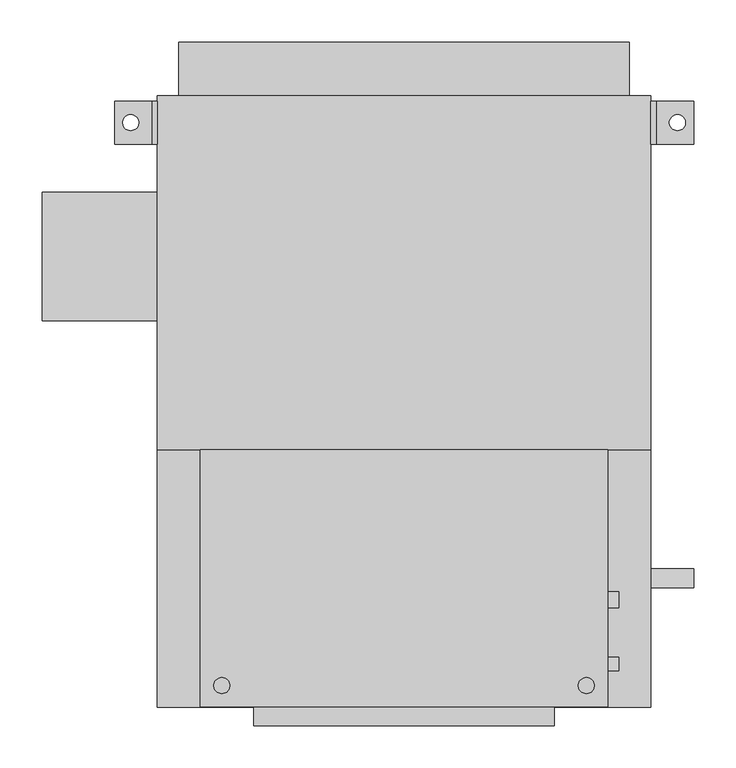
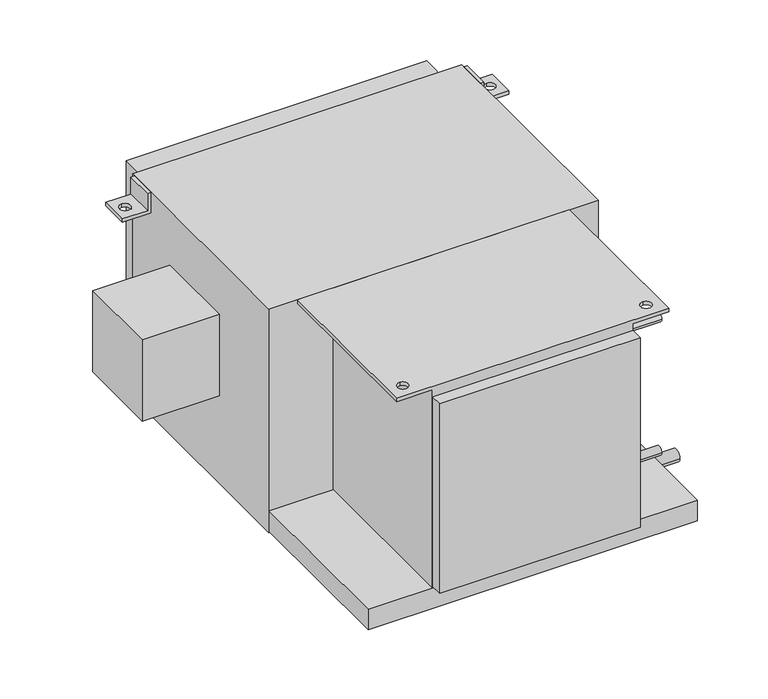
"""IFC4 building model written with IfcOpenShell, lengths in millimetres: proxy geometry, Concealed_High_Capacity_Horizontal_Fan_Coil_Unit_With_Plenum_-_42DCA_-_CARRIER_-_4-Pipe_RH_2022 : Size 06 - 277v/60Hz/1Ph - 6/2 Coil."""

from ifc_helpers import new_model, si_unit, point, frame, frame_2d, origin, place, context, project, spatial, polyline, circle_curve, trimmed, segment, composite_curve, outline, extrude, source, transform, mapped, element, save
from ifc_brep_helpers import plane_surface, revolved_surface, advanced_brep


def mechanical_equipment_5d9127df(model_context):
    return source(origin(), model_context, "Body", "SolidModel", [
        advanced_brep(
        [(-88.9, -85.725, 0.0), (-88.9, -390.525, 0.0), (393.7, -390.525, 0.0), (393.7, -85.725, 0.0), (-63.5, -374.65, 0.0), (-63.5, -355.6, 0.0), (368.3, -374.65, 0.0), (368.3, -355.6, 0.0), (330.2, -85.725, -377.825), (330.2, -390.525, -377.825), (-25.4, -390.525, -377.825), (-25.4, -85.725, -377.825), (-25.4, -85.725, -6.35), (-88.9, -85.725, -6.35), (393.7, -85.725, -6.35), (330.2, -85.725, -6.35), (-25.4, -390.525, -6.35), (330.2, -390.525, -6.35), (393.7, -390.525, -6.35), (-88.9, -390.525, -6.35), (-63.5, -355.6, -6.35), (-63.5, -374.65, -6.35), (368.3, -355.6, -6.35), (368.3, -374.65, -6.35)],
        [
            (0, 1),
            (1, 2),
            (2, 3),
            (3, 0),
            (4, 5, circle_curve(frame((-63.5, -365.125, 0.0), z_axis=(0.0, 0.0, -1.0), x_axis=(0.0, 1.0, 0.0)), 9.525)),
            (5, 4, circle_curve(frame((-63.5, -365.125, 0.0), z_axis=(0.0, 0.0, -1.0), x_axis=(0.0, 1.0, 0.0)), 9.525)),
            (6, 7, circle_curve(frame((368.3, -365.125, 0.0), z_axis=(0.0, 0.0, -1.0), x_axis=(0.0, 1.0, 0.0)), 9.525)),
            (7, 6, circle_curve(frame((368.3, -365.125, 0.0), z_axis=(0.0, 0.0, -1.0), x_axis=(0.0, 1.0, 0.0)), 9.525)),
            (8, 9),
            (9, 10),
            (10, 11),
            (11, 8),
            (11, 12),
            (12, 13),
            (13, 0),
            (3, 14),
            (14, 15),
            (15, 8),
            (10, 16),
            (16, 12),
            (9, 17),
            (17, 18),
            (18, 2),
            (1, 19),
            (19, 16),
            (15, 17),
            (19, 13),
            (20, 21, circle_curve(frame((-63.5, -365.125, -6.35), z_axis=(0.0, 0.0, 1.0), x_axis=(0.0, 1.0, 0.0)), 9.525)),
            (21, 20, circle_curve(frame((-63.5, -365.125, -6.35), z_axis=(0.0, 0.0, 1.0), x_axis=(0.0, 1.0, 0.0)), 9.525)),
            (14, 18),
            (22, 23, circle_curve(frame((368.3, -365.125, -6.35), z_axis=(0.0, 0.0, 1.0), x_axis=(0.0, 1.0, 0.0)), 9.525)),
            (23, 22, circle_curve(frame((368.3, -365.125, -6.35), z_axis=(0.0, 0.0, 1.0), x_axis=(0.0, 1.0, 0.0)), 9.525)),
            (4, 21),
            (20, 5),
            (6, 23),
            (22, 7),
        ],
        [
            plane_surface(frame((-25.4, -85.725, 0.0), z_axis=(0.0, 0.0, 1.0), x_axis=(-1.0, 0.0, 0.0))),
            plane_surface(frame((-25.4, -85.725, -377.825), z_axis=(0.0, 0.0, -1.0), x_axis=(1.0, 0.0, 0.0))),
            plane_surface(frame((330.2, -85.725, 0.0), z_axis=(0.0, 1.0, 0.0), x_axis=(0.0, 0.0, -1.0))),
            plane_surface(frame((-25.4, -85.725, 0.0), z_axis=(-1.0, 0.0, 0.0), x_axis=(0.0, 0.0, -1.0))),
            plane_surface(frame((-25.4, -390.525, 0.0), z_axis=(0.0, -1.0, 0.0), x_axis=(0.0, 0.0, -1.0))),
            plane_surface(frame((330.2, -390.525, 0.0), z_axis=(1.0, 0.0, 0.0), x_axis=(0.0, 0.0, -1.0))),
            plane_surface(frame((-88.9, -85.725, -6.35), z_axis=(0.0, 0.0, -1.0), x_axis=(0.0, 1.0, 0.0))),
            plane_surface(frame((-88.9, -85.725, 0.0), z_axis=(-1.0, 0.0, 0.0), x_axis=(0.0, 0.0, -1.0))),
            plane_surface(frame((393.7, -390.525, 0.0), z_axis=(1.0, 0.0, 0.0), x_axis=(0.0, 0.0, -1.0))),
            revolved_surface(polyline([(-63.5, -355.6, -6.35), (-63.5, -355.6, 0.0)]), (-63.5, -365.125, 0.0), (0.0, 0.0, -1.0)),
            revolved_surface(polyline([(368.3, -355.6, -6.35), (368.3, -355.6, 0.0)]), (368.3, -365.125, 0.0), (0.0, 0.0, -1.0)),
        ],
        [
            (0, [[1, 2, 3, 4], [5, 6], [7, 8]]),
            (1, [[9, 10, 11, 12]]),
            (2, [[-12, 13, 14, 15, -4, 16, 17, 18]]),
            (3, [[-11, 19, 20, -13]]),
            (4, [[-10, 21, 22, 23, -2, 24, 25, -19]]),
            (5, [[-9, -18, 26, -21]]),
            (6, [[-14, -20, -25, 27], [28, 29]]),
            (6, [[30, -22, -26, -17], [31, 32]]),
            (7, [[-27, -24, -1, -15]]),
            (8, [[-30, -16, -3, -23]]),
            (9, [[33, -28, 34, -5]]),
            (9, [[-33, -6, -34, -29]]),
            (10, [[35, -31, 36, -7]]),
            (10, [[-35, -8, -36, -32]]),
        ],
    ),
        advanced_brep(
        [(-139.7, 327.025, -38.1), (-190.5, 327.025, -38.1), (-190.5, 327.025, -31.75), (-146.05, 327.025, -31.75), (-146.05, 327.025, 0.0), (-139.7, 327.025, 0.0), (-139.7, 276.225, -38.1), (-139.7, 276.225, 0.0), (-146.05, 276.225, 0.0), (-146.05, 276.225, -31.75), (-190.5, 276.225, -31.75), (-190.5, 276.225, -38.1), (-171.45, 292.1, -38.1), (-171.45, 311.15, -38.1), (-171.45, 311.15, -31.75), (-171.45, 292.1, -31.75)],
        [
            (0, 1),
            (1, 2),
            (2, 3),
            (3, 4),
            (4, 5),
            (5, 0),
            (6, 7),
            (7, 8),
            (8, 9),
            (9, 10),
            (10, 11),
            (11, 6),
            (0, 6),
            (11, 1),
            (12, 13, circle_curve(frame((-171.45, 301.625, -38.1), z_axis=(0.0, 0.0, 1.0), x_axis=(0.0, -1.0, 0.0)), 9.525)),
            (13, 12, circle_curve(frame((-171.45, 301.625, -38.1), z_axis=(0.0, 0.0, 1.0), x_axis=(0.0, -1.0, 0.0)), 9.525)),
            (10, 2),
            (9, 3),
            (14, 15, circle_curve(frame((-171.45, 301.625, -31.75), z_axis=(0.0, 0.0, -1.0), x_axis=(0.0, -1.0, 0.0)), 9.525)),
            (15, 14, circle_curve(frame((-171.45, 301.625, -31.75), z_axis=(0.0, 0.0, -1.0), x_axis=(0.0, -1.0, 0.0)), 9.525)),
            (8, 4),
            (7, 5),
            (14, 13),
            (12, 15),
        ],
        [
            plane_surface(frame((-139.7, 327.025, -38.1), z_axis=(0.0, 1.0, 0.0), x_axis=(-1.0, 0.0, 0.0))),
            plane_surface(frame((-139.7, 276.225, -38.1), z_axis=(0.0, -1.0, 0.0), x_axis=(1.0, 0.0, 0.0))),
            plane_surface(frame((-139.7, 327.025, -38.1), z_axis=(0.0, 0.0, -1.0), x_axis=(0.0, -1.0, 0.0))),
            plane_surface(frame((-190.5, 327.025, -38.1), z_axis=(-1.0, 0.0, 0.0), x_axis=(0.0, -1.0, 0.0))),
            plane_surface(frame((-190.5, 327.025, -31.75), z_axis=(0.0, 0.0, 1.0), x_axis=(0.0, -1.0, 0.0))),
            plane_surface(frame((-146.05, 327.025, -31.75), z_axis=(-1.0, 0.0, 0.0), x_axis=(0.0, -1.0, 0.0))),
            plane_surface(frame((-146.05, 327.025, 0.0), z_axis=(0.0, 0.0, 1.0), x_axis=(0.0, -1.0, 0.0))),
            plane_surface(frame((-139.7, 327.025, 0.0), z_axis=(1.0, 0.0, 0.0), x_axis=(0.0, -1.0, 0.0))),
            revolved_surface(polyline([(-171.45, 292.1, -38.1), (-171.45, 292.1, -31.75)]), (-171.45, 301.625, -31.75), (0.0, 0.0, -1.0)),
        ],
        [
            (0, [[1, 2, 3, 4, 5, 6]]),
            (1, [[7, 8, 9, 10, 11, 12]]),
            (2, [[-1, 13, -12, 14], [15, 16]]),
            (3, [[-2, -14, -11, 17]]),
            (4, [[-3, -17, -10, 18], [19, 20]]),
            (5, [[-4, -18, -9, 21]]),
            (6, [[-5, -21, -8, 22]]),
            (7, [[-6, -22, -7, -13]]),
            (8, [[23, -15, 24, -19]]),
            (8, [[-23, -20, -24, -16]]),
        ],
    ),
        advanced_brep(
        [(444.5, 327.025, -38.1), (444.5, 327.025, 0.0), (450.85, 327.025, 0.0), (450.85, 327.025, -31.75), (495.3, 327.025, -31.75), (495.3, 327.025, -38.1), (444.5, 276.225, -38.1), (495.3, 276.225, -38.1), (495.3, 276.225, -31.75), (450.85, 276.225, -31.75), (450.85, 276.225, 0.0), (444.5, 276.225, 0.0), (476.25, 311.15, -31.75), (476.25, 292.1, -31.75), (476.25, 292.1, -38.1), (476.25, 311.15, -38.1)],
        [
            (0, 1),
            (1, 2),
            (2, 3),
            (3, 4),
            (4, 5),
            (5, 0),
            (6, 7),
            (7, 8),
            (8, 9),
            (9, 10),
            (10, 11),
            (11, 6),
            (0, 6),
            (11, 1),
            (10, 2),
            (9, 3),
            (8, 4),
            (12, 13, circle_curve(frame((476.25, 301.625, -31.75), z_axis=(0.0, 0.0, -1.0), x_axis=(0.0, -1.0, 0.0)), 9.525)),
            (13, 12, circle_curve(frame((476.25, 301.625, -31.75), z_axis=(0.0, 0.0, -1.0), x_axis=(0.0, -1.0, 0.0)), 9.525)),
            (7, 5),
            (14, 15, circle_curve(frame((476.25, 301.625, -38.1), z_axis=(0.0, 0.0, 1.0), x_axis=(0.0, -1.0, 0.0)), 9.525)),
            (15, 14, circle_curve(frame((476.25, 301.625, -38.1), z_axis=(0.0, 0.0, 1.0), x_axis=(0.0, -1.0, 0.0)), 9.525)),
            (12, 15),
            (14, 13),
        ],
        [
            plane_surface(frame((-139.7, 327.025, -38.1), z_axis=(0.0, 1.0, 0.0), x_axis=(-1.0, 0.0, 0.0))),
            plane_surface(frame((-139.7, 276.225, -38.1), z_axis=(0.0, -1.0, 0.0), x_axis=(1.0, 0.0, 0.0))),
            plane_surface(frame((444.5, 327.025, -38.1), z_axis=(-1.0, 0.0, 0.0), x_axis=(0.0, -1.0, 0.0))),
            plane_surface(frame((444.5, 327.025, 0.0), z_axis=(0.0, 0.0, 1.0), x_axis=(0.0, -1.0, 0.0))),
            plane_surface(frame((450.85, 327.025, 0.0), z_axis=(1.0, 0.0, 0.0), x_axis=(0.0, -1.0, 0.0))),
            plane_surface(frame((450.85, 327.025, -31.75), z_axis=(0.0, 0.0, 1.0), x_axis=(0.0, -1.0, 0.0))),
            plane_surface(frame((495.3, 327.025, -31.75), z_axis=(1.0, 0.0, 0.0), x_axis=(0.0, -1.0, 0.0))),
            plane_surface(frame((495.3, 327.025, -38.1), z_axis=(0.0, 0.0, -1.0), x_axis=(0.0, -1.0, 0.0))),
            revolved_surface(polyline([(476.25, 292.1, -38.1), (476.25, 292.1, -31.75)]), (476.25, 301.625, -31.75), (0.0, 0.0, -1.0)),
        ],
        [
            (0, [[1, 2, 3, 4, 5, 6]]),
            (1, [[7, 8, 9, 10, 11, 12]]),
            (2, [[-1, 13, -12, 14]]),
            (3, [[-2, -14, -11, 15]]),
            (4, [[-3, -15, -10, 16]]),
            (5, [[-4, -16, -9, 17], [18, 19]]),
            (6, [[-5, -17, -8, 20]]),
            (7, [[-6, -20, -7, -13], [21, 22]]),
            (8, [[23, -21, 24, -18]]),
            (8, [[-23, -19, -24, -22]]),
        ],
    ),
        extrude(outline(polyline([(-114.3, 396.875), (419.1, 396.875), (419.1, 333.375), (-114.3, 333.375), (-114.3, 396.875)])), frame((0.0, 0.0, -377.825), z_axis=(0.0, 0.0, 1.0), x_axis=(1.0, 0.0, 0.0)), (0.0, 0.0, 1.0), 355.6),
        extrude(outline(composite_curve([segment(trimmed(circle_curve(frame_2d((-263.525, -76.2)), 9.525), [point((-254.0, -76.2))], [point((-273.05, -76.2))], False, "CARTESIAN"), True, "CONTINUOUS"), segment(trimmed(circle_curve(frame_2d((-263.525, -76.2)), 9.525), [point((-273.05, -76.2))], [point((-254.0, -76.2))], False, "CARTESIAN"), True, "CONTINUOUS")], self_intersect=False)), frame((330.2, 0.0, 0.0), z_axis=(1.0, 0.0, 0.0), x_axis=(0.0, 1.0, 0.0)), (0.0, 0.0, 1.0), 76.2),
        extrude(outline(composite_curve([segment(trimmed(circle_curve(frame_2d((-263.525, -301.625)), 9.525), [point((-254.0, -301.625))], [point((-273.05, -301.625))], False, "CARTESIAN"), True, "CONTINUOUS"), segment(trimmed(circle_curve(frame_2d((-263.525, -301.625)), 9.525), [point((-273.05, -301.625))], [point((-254.0, -301.625))], False, "CARTESIAN"), True, "CONTINUOUS")], self_intersect=False)), frame((330.2, 0.0, 0.0), z_axis=(1.0, 0.0, 0.0), x_axis=(0.0, 1.0, 0.0)), (0.0, 0.0, 1.0), 76.2),
        extrude(outline(composite_curve([segment(trimmed(circle_curve(frame_2d((-339.725, -50.8)), 7.9375), [point((-331.7875, -50.8))], [point((-347.6625, -50.8))], False, "CARTESIAN"), True, "CONTINUOUS"), segment(trimmed(circle_curve(frame_2d((-339.725, -50.8)), 7.9375), [point((-347.6625, -50.8))], [point((-331.7875, -50.8))], False, "CARTESIAN"), True, "CONTINUOUS")], self_intersect=False)), frame((330.2, 0.0, 0.0), z_axis=(1.0, 0.0, 0.0), x_axis=(0.0, 1.0, 0.0)), (0.0, 0.0, 1.0), 76.2),
        extrude(outline(composite_curve([segment(trimmed(circle_curve(frame_2d((-339.725, -301.625)), 7.9375), [point((-331.7875, -301.625))], [point((-347.6625, -301.625))], False, "CARTESIAN"), True, "CONTINUOUS"), segment(trimmed(circle_curve(frame_2d((-339.725, -301.625)), 7.9375), [point((-347.6625, -301.625))], [point((-331.7875, -301.625))], False, "CARTESIAN"), True, "CONTINUOUS")], self_intersect=False)), frame((330.2, 0.0, 0.0), z_axis=(1.0, 0.0, 0.0), x_axis=(0.0, 1.0, 0.0)), (0.0, 0.0, 1.0), 76.2),
        extrude(outline(composite_curve([segment(trimmed(circle_curve(frame_2d((-238.125, -403.225)), 11.1125), [point((-227.0125, -403.225))], [point((-249.2375, -403.225))], False, "CARTESIAN"), True, "CONTINUOUS"), segment(trimmed(circle_curve(frame_2d((-238.125, -403.225)), 11.1125), [point((-249.2375, -403.225))], [point((-227.0125, -403.225))], False, "CARTESIAN"), True, "CONTINUOUS")], self_intersect=False)), frame((444.5, 0.0, 0.0), z_axis=(1.0, 0.0, 0.0), x_axis=(0.0, 1.0, 0.0)), (0.0, 0.0, 1.0), 50.8),
        extrude(outline(polyline([(-276.225, 66.675), (-276.225, 219.075), (-139.7, 219.075), (-139.7, 66.675), (-276.225, 66.675)])), frame((0.0, 0.0, -254.0), z_axis=(0.0, 0.0, 1.0), x_axis=(1.0, 0.0, 0.0)), (0.0, 0.0, 1.0), 152.4),
        extrude(outline(polyline([(330.2, -412.75), (-25.4, -412.75), (-25.4, -390.525), (330.2, -390.525), (330.2, -412.75)])), frame((0.0, 0.0, -374.65), z_axis=(0.0, 0.0, 1.0), x_axis=(1.0, 0.0, 0.0)), (0.0, 0.0, 1.0), 355.6),
        extrude(outline(polyline([(444.5, -85.725), (-139.7, -85.725), (-139.7, 333.375), (444.5, 333.375), (444.5, -85.725)])), frame((0.0, 0.0, -419.1), z_axis=(0.0, 0.0, 1.0), x_axis=(1.0, 0.0, 0.0)), (0.0, 0.0, 1.0), 419.1),
        extrude(outline(polyline([(444.5, -85.725), (444.5, -390.525), (-139.7, -390.525), (-139.7, -85.725), (444.5, -85.725)])), frame((0.0, 0.0, -415.925), z_axis=(0.0, 0.0, 1.0), x_axis=(1.0, 0.0, 0.0)), (0.0, 0.0, 1.0), 38.1),
    ])


if __name__ == "__main__":
    model = new_model("IFC4")
    model_context = context("Model", 3, world=origin())
    ifc_project = project(units=[si_unit("LENGTHUNIT", "METRE", prefix="MILLI")], contexts=[model_context])
    site = spatial("IfcSite", under=ifc_project)
    building = spatial("IfcBuilding", under=site)
    placement = place(None, origin())
    mechanical_equipment_shape = mechanical_equipment_5d9127df(model_context)
    element("IfcBuildingElementProxy", 1, Name="Concealed_High_Capacity_Horizontal_Fan_Coil_Unit_With_Plenum_-_42DCA_-_CARRIER_-_4-Pipe_RH_2022 : Size 06 - 277v/60Hz/1Ph - 6/2 Coil", ObjectType="Concealed_High_Capacity_Horizontal_Fan_Coil_Unit_With_Plenum_-_42DCA_-_CARRIER_-_4-Pipe_RH_2022 : Size 06 - 277v/60Hz/1Ph - 6/2 Coil", at=placement, inside=building, context=model_context, shape_type="MappedRepresentation", body=[
        mapped(mechanical_equipment_shape, transform((0.0, 0.0, 0.0), x_axis=(1.0, 0.0, 0.0), y_axis=(0.0, 1.0, 0.0), z_axis=(0.0, 0.0, 1.0))),
    ])
    save(model, "model.ifc")
